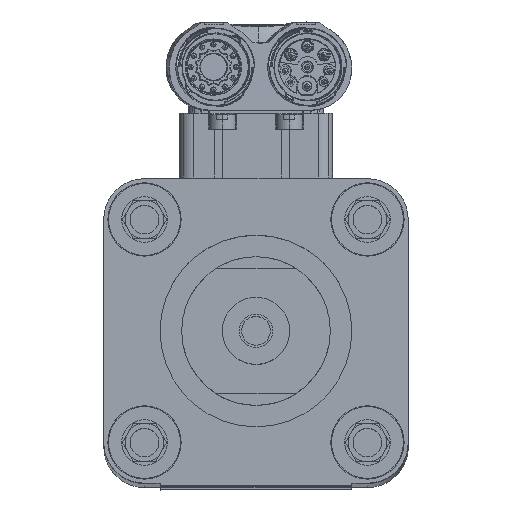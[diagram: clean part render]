
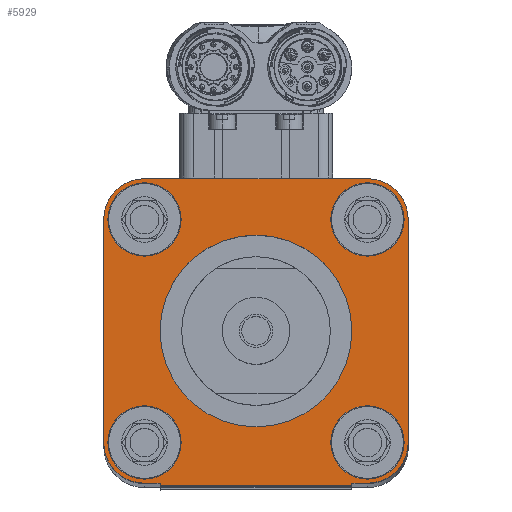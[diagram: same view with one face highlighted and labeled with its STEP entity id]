
A CAD part, left-side view. The second image highlights one B-rep face of the part: STEP entity #5929.
In plain terms, the highlighted planar face has unit normal (-1, 0, 0.002) as drawn and (0, 0, 1) by its records, which use the part's own axes.
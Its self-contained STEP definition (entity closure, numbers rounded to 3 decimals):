
#5929=ADVANCED_FACE('10:20',(#13378,#13379,#13380,#13381,#13382,#13383),#13384,.T.);
#13378=FACE_BOUND('',#21879,.T.);
#13379=FACE_BOUND('',#21880,.T.);
#13380=FACE_BOUND('',#21881,.T.);
#13381=FACE_BOUND('',#21882,.T.);
#13382=FACE_BOUND('',#21883,.T.);
#13383=FACE_OUTER_BOUND('',#21884,.T.);
#13384=PLANE('',#21885);
#21879=EDGE_LOOP('',(#54190,#54191));
#21880=EDGE_LOOP('',(#54192,#54193));
#21881=EDGE_LOOP('',(#54194,#54195));
#21882=EDGE_LOOP('',(#54196,#54197));
#21883=EDGE_LOOP('',(#54198,#54199));
#21884=EDGE_LOOP('',(#54200,#54201,#54202,#54203,#54204,#54205,#54206,#54207,#54208,#54209,#54210,#54211,#54212,#54213,#54214,#54215));
#21885=AXIS2_PLACEMENT_3D('',#54216,#54217,#54218);
#54190=ORIENTED_EDGE('',*,*,#72833,.F.);
#54191=ORIENTED_EDGE('',*,*,#72838,.F.);
#54192=ORIENTED_EDGE('',*,*,#72763,.F.);
#54193=ORIENTED_EDGE('',*,*,#72839,.F.);
#54194=ORIENTED_EDGE('',*,*,#72768,.F.);
#54195=ORIENTED_EDGE('',*,*,#72840,.F.);
#54196=ORIENTED_EDGE('',*,*,#72773,.F.);
#54197=ORIENTED_EDGE('',*,*,#72841,.F.);
#54198=ORIENTED_EDGE('',*,*,#72778,.F.);
#54199=ORIENTED_EDGE('',*,*,#72842,.F.);
#54200=ORIENTED_EDGE('',*,*,#72783,.F.);
#54201=ORIENTED_EDGE('',*,*,#72843,.F.);
#54202=ORIENTED_EDGE('',*,*,#72844,.F.);
#54203=ORIENTED_EDGE('',*,*,#72788,.F.);
#54204=ORIENTED_EDGE('',*,*,#72845,.F.);
#54205=ORIENTED_EDGE('',*,*,#72846,.F.);
#54206=ORIENTED_EDGE('',*,*,#72793,.F.);
#54207=ORIENTED_EDGE('',*,*,#72847,.F.);
#54208=ORIENTED_EDGE('',*,*,#72848,.F.);
#54209=ORIENTED_EDGE('',*,*,#72798,.F.);
#54210=ORIENTED_EDGE('',*,*,#72849,.F.);
#54211=ORIENTED_EDGE('',*,*,#72850,.F.);
#54212=ORIENTED_EDGE('',*,*,#72851,.F.);
#54213=ORIENTED_EDGE('',*,*,#72852,.F.);
#54214=ORIENTED_EDGE('',*,*,#72853,.F.);
#54215=ORIENTED_EDGE('',*,*,#72854,.F.);
#54216=CARTESIAN_POINT('',(0.0,0.0,34.0));
#54217=DIRECTION('',(0.0,0.0,1.0));
#54218=DIRECTION('',(1.0,0.0,0.0));
#72763=EDGE_CURVE('0:1577',#85977,#85973,#85979,.F.);
#72768=EDGE_CURVE('0:1603',#85986,#85982,#85988,.F.);
#72773=EDGE_CURVE('0:1551',#85995,#85991,#85997,.F.);
#72778=EDGE_CURVE('0:1525',#86004,#86000,#86006,.F.);
#72783=EDGE_CURVE('0:1801',#86013,#86009,#86015,.F.);
#72788=EDGE_CURVE('0:1695',#86022,#86018,#86024,.F.);
#72793=EDGE_CURVE('0:1637',#86031,#86027,#86033,.F.);
#72798=EDGE_CURVE('0:1747',#86040,#86036,#86042,.F.);
#72833=EDGE_CURVE('10:253',#86103,#86099,#86105,.T.);
#72838=EDGE_CURVE('',#86099,#86103,#86110,.T.);
#72839=EDGE_CURVE('',#85973,#85977,#86111,.F.);
#72840=EDGE_CURVE('',#85982,#85986,#86112,.F.);
#72841=EDGE_CURVE('',#85991,#85995,#86113,.F.);
#72842=EDGE_CURVE('',#86000,#86004,#86114,.F.);
#72843=EDGE_CURVE('0:863',#86115,#86013,#86116,.F.);
#72844=EDGE_CURVE('',#86018,#86115,#86117,.F.);
#72845=EDGE_CURVE('0:854',#86118,#86022,#86119,.F.);
#72846=EDGE_CURVE('',#86027,#86118,#86120,.F.);
#72847=EDGE_CURVE('0:845',#86121,#86031,#86122,.F.);
#72848=EDGE_CURVE('',#86036,#86121,#86123,.F.);
#72849=EDGE_CURVE('13:44',#86124,#86040,#86125,.F.);
#72850=EDGE_CURVE('13:385',#86126,#86124,#86127,.T.);
#72851=EDGE_CURVE('13:394',#86128,#86126,#86129,.T.);
#72852=EDGE_CURVE('13:400',#86130,#86128,#86131,.T.);
#72853=EDGE_CURVE('13:41',#86132,#86130,#86133,.F.);
#72854=EDGE_CURVE('',#86009,#86132,#86134,.F.);
#85973=VERTEX_POINT('',#108524);
#85977=VERTEX_POINT('',#108529);
#85979=CIRCLE('',#108532,7.65);
#85982=VERTEX_POINT('',#108535);
#85986=VERTEX_POINT('',#108540);
#85988=CIRCLE('',#108543,7.65);
#85991=VERTEX_POINT('',#108546);
#85995=VERTEX_POINT('',#108551);
#85997=CIRCLE('',#108554,7.65);
#86000=VERTEX_POINT('',#108557);
#86004=VERTEX_POINT('',#108562);
#86006=CIRCLE('',#108565,7.65);
#86009=VERTEX_POINT('',#108568);
#86013=VERTEX_POINT('',#108573);
#86015=CIRCLE('',#108576,8.5);
#86018=VERTEX_POINT('',#108579);
#86022=VERTEX_POINT('',#108584);
#86024=CIRCLE('',#108587,8.5);
#86027=VERTEX_POINT('',#108590);
#86031=VERTEX_POINT('',#108595);
#86033=CIRCLE('',#108598,8.5);
#86036=VERTEX_POINT('',#108601);
#86040=VERTEX_POINT('',#108606);
#86042=CIRCLE('',#108609,8.5);
#86099=VERTEX_POINT('',#108678);
#86103=VERTEX_POINT('',#108683);
#86105=CIRCLE('',#108686,20.0);
#86110=CIRCLE('',#108691,20.0);
#86111=CIRCLE('',#108692,7.65);
#86112=CIRCLE('',#108693,7.65);
#86113=CIRCLE('',#108694,7.65);
#86114=CIRCLE('',#108695,7.65);
#86115=VERTEX_POINT('',#108696);
#86116=LINE('',#108697,#108698);
#86117=CIRCLE('',#108699,8.5);
#86118=VERTEX_POINT('',#108700);
#86119=LINE('',#108701,#108702);
#86120=CIRCLE('',#108703,8.5);
#86121=VERTEX_POINT('',#108704);
#86122=LINE('',#108705,#108706);
#86123=CIRCLE('',#108707,8.5);
#86124=VERTEX_POINT('',#108708);
#86125=LINE('',#108709,#108710);
#86126=VERTEX_POINT('',#108711);
#86127=LINE('',#108712,#108713);
#86128=VERTEX_POINT('',#108714);
#86129=LINE('',#108715,#108716);
#86130=VERTEX_POINT('',#108717);
#86131=LINE('',#108718,#108719);
#86132=VERTEX_POINT('',#108720);
#86133=LINE('',#108721,#108722);
#86134=CIRCLE('',#108723,8.5);
#108524=CARTESIAN_POINT('',(46.709,-36.636,34.0));
#108529=CARTESIAN_POINT('',(31.409,-36.636,34.0));
#108532=AXIS2_PLACEMENT_3D('',#149735,#149736,#149737);
#108535=CARTESIAN_POINT('',(0.209,-36.636,34.0));
#108540=CARTESIAN_POINT('',(-15.091,-36.636,34.0));
#108543=AXIS2_PLACEMENT_3D('',#149743,#149744,#149745);
#108546=CARTESIAN_POINT('',(46.709,9.864,34.0));
#108551=CARTESIAN_POINT('',(31.409,9.864,34.0));
#108554=AXIS2_PLACEMENT_3D('',#149751,#149752,#149753);
#108557=CARTESIAN_POINT('',(0.209,9.864,34.0));
#108562=CARTESIAN_POINT('',(-15.091,9.864,34.0));
#108565=AXIS2_PLACEMENT_3D('',#149759,#149760,#149761);
#108568=CARTESIAN_POINT('',(45.069,-42.647,34.0));
#108573=CARTESIAN_POINT('',(47.559,-36.636,34.0));
#108576=AXIS2_PLACEMENT_3D('',#149767,#149768,#149769);
#108579=CARTESIAN_POINT('',(45.069,15.874,34.0));
#108584=CARTESIAN_POINT('',(39.059,18.364,34.0));
#108587=AXIS2_PLACEMENT_3D('',#149775,#149776,#149777);
#108590=CARTESIAN_POINT('',(-13.451,15.874,34.0));
#108595=CARTESIAN_POINT('',(-15.941,9.864,34.0));
#108598=AXIS2_PLACEMENT_3D('',#149783,#149784,#149785);
#108601=CARTESIAN_POINT('',(-13.451,-42.647,34.0));
#108606=CARTESIAN_POINT('',(-7.441,-45.136,34.0));
#108609=AXIS2_PLACEMENT_3D('',#149791,#149792,#149793);
#108678=CARTESIAN_POINT('',(35.809,-13.386,34.0));
#108683=CARTESIAN_POINT('',(-4.191,-13.386,34.0));
#108686=AXIS2_PLACEMENT_3D('',#149847,#149848,#149849);
#108691=AXIS2_PLACEMENT_3D('',#149856,#149857,#149858);
#108692=AXIS2_PLACEMENT_3D('',#149859,#149860,#149861);
#108693=AXIS2_PLACEMENT_3D('',#149862,#149863,#149864);
#108694=AXIS2_PLACEMENT_3D('',#149865,#149866,#149867);
#108695=AXIS2_PLACEMENT_3D('',#149868,#149869,#149870);
#108696=CARTESIAN_POINT('',(47.559,9.864,34.0));
#108697=CARTESIAN_POINT('',(47.559,-6.693,34.0));
#108698=VECTOR('',#149871,1.0);
#108699=AXIS2_PLACEMENT_3D('',#149872,#149873,#149874);
#108700=CARTESIAN_POINT('',(-7.441,18.364,34.0));
#108701=CARTESIAN_POINT('',(7.904,18.364,34.0));
#108702=VECTOR('',#149875,1.0);
#108703=AXIS2_PLACEMENT_3D('',#149876,#149877,#149878);
#108704=CARTESIAN_POINT('',(-15.941,-36.636,34.0));
#108705=CARTESIAN_POINT('',(-15.941,-6.693,34.0));
#108706=VECTOR('',#149879,1.0);
#108707=AXIS2_PLACEMENT_3D('',#149880,#149881,#149882);
#108708=CARTESIAN_POINT('',(-4.191,-45.136,34.0));
#108709=CARTESIAN_POINT('',(7.904,-45.136,34.0));
#108710=VECTOR('',#149883,1.0);
#108711=CARTESIAN_POINT('',(-4.191,-45.636,34.0));
#108712=CARTESIAN_POINT('',(-4.191,-45.636,34.0));
#108713=VECTOR('',#149884,1.0);
#108714=CARTESIAN_POINT('',(35.809,-45.636,34.0));
#108715=CARTESIAN_POINT('',(35.809,-45.636,34.0));
#108716=VECTOR('',#149885,1.0);
#108717=CARTESIAN_POINT('',(35.809,-45.136,34.0));
#108718=CARTESIAN_POINT('',(35.809,-45.136,34.0));
#108719=VECTOR('',#149886,1.0);
#108720=CARTESIAN_POINT('',(39.059,-45.136,34.0));
#108721=CARTESIAN_POINT('',(7.904,-45.136,34.0));
#108722=VECTOR('',#149887,1.0);
#108723=AXIS2_PLACEMENT_3D('',#149888,#149889,#149890);
#149735=CARTESIAN_POINT('',(39.059,-36.636,34.0));
#149736=DIRECTION('',(0.0,0.0,-1.0));
#149737=DIRECTION('',(1.0,0.0,0.0));
#149743=CARTESIAN_POINT('',(-7.441,-36.636,34.0));
#149744=DIRECTION('',(0.0,0.0,-1.0));
#149745=DIRECTION('',(1.0,0.0,0.0));
#149751=CARTESIAN_POINT('',(39.059,9.864,34.0));
#149752=DIRECTION('',(0.0,0.0,-1.0));
#149753=DIRECTION('',(1.0,0.0,0.0));
#149759=CARTESIAN_POINT('',(-7.441,9.864,34.0));
#149760=DIRECTION('',(0.0,0.0,-1.0));
#149761=DIRECTION('',(1.0,0.0,0.0));
#149767=CARTESIAN_POINT('',(39.059,-36.636,34.0));
#149768=DIRECTION('',(0.0,0.0,1.0));
#149769=DIRECTION('',(0.707,-0.707,0.0));
#149775=CARTESIAN_POINT('',(39.059,9.864,34.0));
#149776=DIRECTION('',(0.0,-0.0,1.0));
#149777=DIRECTION('',(0.707,0.707,0.0));
#149783=CARTESIAN_POINT('',(-7.441,9.864,34.0));
#149784=DIRECTION('',(0.0,0.0,1.0));
#149785=DIRECTION('',(-0.707,0.707,0.0));
#149791=CARTESIAN_POINT('',(-7.441,-36.636,34.0));
#149792=DIRECTION('',(0.0,0.0,1.0));
#149793=DIRECTION('',(-0.707,-0.707,0.0));
#149847=CARTESIAN_POINT('',(15.809,-13.386,34.0));
#149848=DIRECTION('',(0.0,0.0,1.0));
#149849=DIRECTION('',(1.0,0.0,-0.0));
#149856=CARTESIAN_POINT('',(15.809,-13.386,34.0));
#149857=DIRECTION('',(0.0,0.0,1.0));
#149858=DIRECTION('',(1.0,0.0,-0.0));
#149859=CARTESIAN_POINT('',(39.059,-36.636,34.0));
#149860=DIRECTION('',(0.0,0.0,-1.0));
#149861=DIRECTION('',(1.0,0.0,0.0));
#149862=CARTESIAN_POINT('',(-7.441,-36.636,34.0));
#149863=DIRECTION('',(0.0,0.0,-1.0));
#149864=DIRECTION('',(1.0,0.0,0.0));
#149865=CARTESIAN_POINT('',(39.059,9.864,34.0));
#149866=DIRECTION('',(0.0,0.0,-1.0));
#149867=DIRECTION('',(1.0,0.0,0.0));
#149868=CARTESIAN_POINT('',(-7.441,9.864,34.0));
#149869=DIRECTION('',(0.0,0.0,-1.0));
#149870=DIRECTION('',(1.0,0.0,0.0));
#149871=DIRECTION('',(-0.0,1.0,0.0));
#149872=CARTESIAN_POINT('',(39.059,9.864,34.0));
#149873=DIRECTION('',(0.0,-0.0,1.0));
#149874=DIRECTION('',(0.707,0.707,0.0));
#149875=DIRECTION('',(-1.0,0.0,0.0));
#149876=CARTESIAN_POINT('',(-7.441,9.864,34.0));
#149877=DIRECTION('',(0.0,0.0,1.0));
#149878=DIRECTION('',(-0.707,0.707,0.0));
#149879=DIRECTION('',(0.0,-1.0,0.0));
#149880=CARTESIAN_POINT('',(-7.441,-36.636,34.0));
#149881=DIRECTION('',(0.0,0.0,1.0));
#149882=DIRECTION('',(-0.707,-0.707,0.0));
#149883=DIRECTION('',(1.0,0.0,-0.0));
#149884=DIRECTION('',(0.0,1.0,0.0));
#149885=DIRECTION('',(-1.0,0.0,0.0));
#149886=DIRECTION('',(0.0,-1.0,0.0));
#149887=DIRECTION('',(1.0,0.0,-0.0));
#149888=CARTESIAN_POINT('',(39.059,-36.636,34.0));
#149889=DIRECTION('',(0.0,0.0,1.0));
#149890=DIRECTION('',(0.707,-0.707,0.0));
